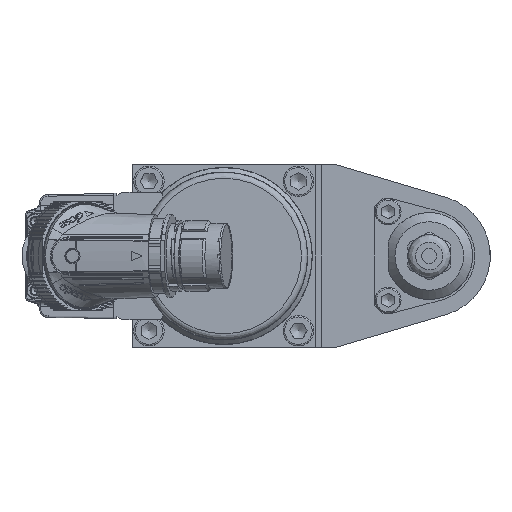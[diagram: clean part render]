
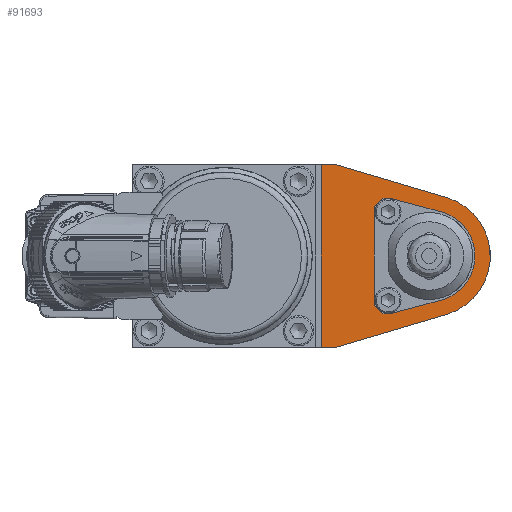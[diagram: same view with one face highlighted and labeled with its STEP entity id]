
A CAD part, left-side view. The second image highlights one B-rep face of the part: STEP entity #91693.
In plain terms, the highlighted planar face has unit normal (-1, 0, 0).
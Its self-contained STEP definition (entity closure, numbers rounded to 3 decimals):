
#1731 = VECTOR ( 'NONE', #75894, 1000. ) ;
#2141 = EDGE_CURVE ( 'NONE', #32224, #18360, #51848, .T. ) ;
#2473 = LINE ( 'NONE', #89909, #1731 ) ;
#3342 = CARTESIAN_POINT ( 'NONE',  ( -86.7, 12.953, -19. ) ) ;
#3346 = CIRCLE ( 'NONE', #43482, 20. ) ;
#5646 = VERTEX_POINT ( 'NONE', #46909 ) ;
#8088 = EDGE_CURVE ( 'NONE', #46931, #10478, #41801, .T. ) ;
#8273 = LINE ( 'NONE', #61376, #49084 ) ;
#10206 = AXIS2_PLACEMENT_3D ( 'NONE', #84966, #11539, #33283 ) ;
#10478 = VERTEX_POINT ( 'NONE', #75921 ) ;
#10480 = EDGE_LOOP ( 'NONE', ( #71811, #85649, #81779, #52990, #79314, #25099 ) ) ;
#11539 = DIRECTION ( 'NONE',  ( 1., 0., 0. ) ) ;
#12326 = LINE ( 'NONE', #78978, #25428 ) ;
#15981 = LINE ( 'NONE', #23683, #19478 ) ;
#16580 = CARTESIAN_POINT ( 'NONE',  ( -86.7, 18., -16.2 ) ) ;
#18360 = VERTEX_POINT ( 'NONE', #33918 ) ;
#19478 = VECTOR ( 'NONE', #38659, 1000. ) ;
#19523 = DIRECTION ( 'NONE',  ( 0., -0.707, 0.707 ) ) ;
#20534 = VERTEX_POINT ( 'NONE', #83265 ) ;
#23245 = DIRECTION ( 'NONE',  ( 0., 0.959, -0.284 ) ) ;
#23683 = CARTESIAN_POINT ( 'NONE',  ( -86.7, 30.86, 30. ) ) ;
#23724 = VERTEX_POINT ( 'NONE', #90726 ) ;
#24945 = EDGE_CURVE ( 'NONE', #39372, #46931, #2473, .T. ) ;
#25099 = ORIENTED_EDGE ( 'NONE', *, *, #34596, .F. ) ;
#25428 = VECTOR ( 'NONE', #56244, 1000. ) ;
#26110 = VECTOR ( 'NONE', #48882, 1000. ) ;
#26519 = EDGE_CURVE ( 'NONE', #42281, #80977, #42237, .T. ) ;
#26972 = DIRECTION ( 'NONE',  ( 0., 0.966, -0.259 ) ) ;
#27162 = LINE ( 'NONE', #93337, #26110 ) ;
#28920 = LINE ( 'NONE', #73820, #29144 ) ;
#29144 = VECTOR ( 'NONE', #57906, 1000. ) ;
#29434 = VECTOR ( 'NONE', #19523, 1000. ) ;
#31169 = EDGE_CURVE ( 'NONE', #20534, #57460, #27162, .T. ) ;
#32224 = VERTEX_POINT ( 'NONE', #75754 ) ;
#33283 = DIRECTION ( 'NONE',  ( 0., 0., -1. ) ) ;
#33918 = CARTESIAN_POINT ( 'NONE',  ( -86.7, -3.882, -14.489 ) ) ;
#34596 = EDGE_CURVE ( 'NONE', #57460, #5646, #3346, .T. ) ;
#34990 = LINE ( 'NONE', #92009, #29434 ) ;
#35445 = DIRECTION ( 'NONE',  ( 0., -1., 0. ) ) ;
#38469 = CARTESIAN_POINT ( 'NONE',  ( -86.7, 18., -19. ) ) ;
#38659 = DIRECTION ( 'NONE',  ( 0., -1., 0. ) ) ;
#39372 = VERTEX_POINT ( 'NONE', #59642 ) ;
#40659 = VERTEX_POINT ( 'NONE', #59707 ) ;
#41801 = LINE ( 'NONE', #71278, #69858 ) ;
#42237 = LINE ( 'NONE', #92493, #89788 ) ;
#42281 = VERTEX_POINT ( 'NONE', #84778 ) ;
#43482 = AXIS2_PLACEMENT_3D ( 'NONE', #62053, #53831, #62989 ) ;
#43719 = EDGE_CURVE ( 'NONE', #5646, #40659, #8273, .T. ) ;
#44038 = DIRECTION ( 'NONE',  ( 1., 0., 0. ) ) ;
#44509 = FACE_BOUND ( 'NONE', #86159, .T. ) ;
#45712 = DIRECTION ( 'NONE',  ( 0., 1., 0. ) ) ;
#46659 = VECTOR ( 'NONE', #26972, 1000. ) ;
#46909 = CARTESIAN_POINT ( 'NONE',  ( -86.7, -5.68, -19.176 ) ) ;
#46931 = VERTEX_POINT ( 'NONE', #16580 ) ;
#48829 = VECTOR ( 'NONE', #45712, 1000. ) ;
#48882 = DIRECTION ( 'NONE',  ( 0., -0.959, -0.284 ) ) ;
#49084 = VECTOR ( 'NONE', #23245, 1000. ) ;
#49633 = ORIENTED_EDGE ( 'NONE', *, *, #89963, .T. ) ;
#51792 = LINE ( 'NONE', #65834, #85605 ) ;
#51848 = CIRCLE ( 'NONE', #10206, 15. ) ;
#52223 = CARTESIAN_POINT ( 'NONE',  ( -86.7, 0., 0. ) ) ;
#52990 = ORIENTED_EDGE ( 'NONE', *, *, #74279, .F. ) ;
#53831 = DIRECTION ( 'NONE',  ( 1., 0., 0. ) ) ;
#54933 = ORIENTED_EDGE ( 'NONE', *, *, #70540, .T. ) ;
#55309 = ORIENTED_EDGE ( 'NONE', *, *, #2141, .T. ) ;
#55509 = EDGE_CURVE ( 'NONE', #10478, #23724, #34990, .T. ) ;
#55862 = CARTESIAN_POINT ( 'NONE',  ( -86.7, 12.953, -19. ) ) ;
#56244 = DIRECTION ( 'NONE',  ( 0., -0.966, -0.259 ) ) ;
#57460 = VERTEX_POINT ( 'NONE', #92570 ) ;
#57906 = DIRECTION ( 'NONE',  ( 0., 1., 0. ) ) ;
#58335 = ORIENTED_EDGE ( 'NONE', *, *, #55509, .T. ) ;
#59017 = FACE_OUTER_BOUND ( 'NONE', #10480, .T. ) ;
#59642 = CARTESIAN_POINT ( 'NONE',  ( -86.7, 15.2, -19. ) ) ;
#59707 = CARTESIAN_POINT ( 'NONE',  ( -86.7, 30.86, -30. ) ) ;
#60257 = CARTESIAN_POINT ( 'NONE',  ( -86.7, 12.953, 19. ) ) ;
#61181 = AXIS2_PLACEMENT_3D ( 'NONE', #52223, #44038, #73508 ) ;
#61376 = CARTESIAN_POINT ( 'NONE',  ( -86.7, -5.68, -19.176 ) ) ;
#61842 = CARTESIAN_POINT ( 'NONE',  ( -86.7, 35.397, 30. ) ) ;
#62053 = CARTESIAN_POINT ( 'NONE',  ( -86.7, 0., 0. ) ) ;
#62989 = DIRECTION ( 'NONE',  ( 0., 0., -1. ) ) ;
#65834 = CARTESIAN_POINT ( 'NONE',  ( -86.7, 12.953, 19. ) ) ;
#69014 = ORIENTED_EDGE ( 'NONE', *, *, #24945, .T. ) ;
#69858 = VECTOR ( 'NONE', #85765, 1000. ) ;
#70540 = EDGE_CURVE ( 'NONE', #23724, #73307, #51792, .T. ) ;
#71278 = CARTESIAN_POINT ( 'NONE',  ( -86.7, 18., 19. ) ) ;
#71811 = ORIENTED_EDGE ( 'NONE', *, *, #31169, .F. ) ;
#72823 = ORIENTED_EDGE ( 'NONE', *, *, #91961, .T. ) ;
#73307 = VERTEX_POINT ( 'NONE', #60257 ) ;
#73508 = DIRECTION ( 'NONE',  ( 0., 0., -1. ) ) ;
#73820 = CARTESIAN_POINT ( 'NONE',  ( -86.7, 97.397, -30. ) ) ;
#73986 = PLANE ( 'NONE',  #61181 ) ;
#74279 = EDGE_CURVE ( 'NONE', #40659, #42281, #28920, .T. ) ;
#75754 = CARTESIAN_POINT ( 'NONE',  ( -86.7, -3.882, 14.489 ) ) ;
#75894 = DIRECTION ( 'NONE',  ( 0., 0.707, 0.707 ) ) ;
#75921 = CARTESIAN_POINT ( 'NONE',  ( -86.7, 18., 16.2 ) ) ;
#77710 = LINE ( 'NONE', #3342, #46659 ) ;
#77751 = EDGE_CURVE ( 'NONE', #80977, #20534, #15981, .T. ) ;
#78978 = CARTESIAN_POINT ( 'NONE',  ( -86.7, 12.953, 19. ) ) ;
#79314 = ORIENTED_EDGE ( 'NONE', *, *, #43719, .F. ) ;
#80977 = VERTEX_POINT ( 'NONE', #61842 ) ;
#81779 = ORIENTED_EDGE ( 'NONE', *, *, #26519, .F. ) ;
#83265 = CARTESIAN_POINT ( 'NONE',  ( -86.7, 30.86, 30. ) ) ;
#84778 = CARTESIAN_POINT ( 'NONE',  ( -86.7, 35.397, -30. ) ) ;
#84966 = CARTESIAN_POINT ( 'NONE',  ( -86.7, 0., 0. ) ) ;
#85027 = ORIENTED_EDGE ( 'NONE', *, *, #8088, .T. ) ;
#85254 = DIRECTION ( 'NONE',  ( 0., 0., 1. ) ) ;
#85605 = VECTOR ( 'NONE', #35445, 1000. ) ;
#85649 = ORIENTED_EDGE ( 'NONE', *, *, #77751, .F. ) ;
#85765 = DIRECTION ( 'NONE',  ( 0., 0., 1. ) ) ;
#86159 = EDGE_LOOP ( 'NONE', ( #85027, #58335, #54933, #49633, #55309, #93943, #72823, #69014 ) ) ;
#86411 = EDGE_CURVE ( 'NONE', #18360, #87682, #77710, .T. ) ;
#87682 = VERTEX_POINT ( 'NONE', #55862 ) ;
#89212 = LINE ( 'NONE', #38469, #48829 ) ;
#89788 = VECTOR ( 'NONE', #85254, 1000. ) ;
#89909 = CARTESIAN_POINT ( 'NONE',  ( -86.7, 17.1, -17.1 ) ) ;
#89963 = EDGE_CURVE ( 'NONE', #73307, #32224, #12326, .T. ) ;
#90726 = CARTESIAN_POINT ( 'NONE',  ( -86.7, 15.2, 19. ) ) ;
#91693 = ADVANCED_FACE ( 'NONE', ( #59017, #44509 ), #73986, .F. ) ;
#91961 = EDGE_CURVE ( 'NONE', #87682, #39372, #89212, .T. ) ;
#92009 = CARTESIAN_POINT ( 'NONE',  ( -86.7, 17.1, 17.1 ) ) ;
#92493 = CARTESIAN_POINT ( 'NONE',  ( -86.7, 35.397, -30. ) ) ;
#92570 = CARTESIAN_POINT ( 'NONE',  ( -86.7, -5.68, 19.176 ) ) ;
#93337 = CARTESIAN_POINT ( 'NONE',  ( -86.7, 30.86, 30. ) ) ;
#93943 = ORIENTED_EDGE ( 'NONE', *, *, #86411, .T. ) ;
